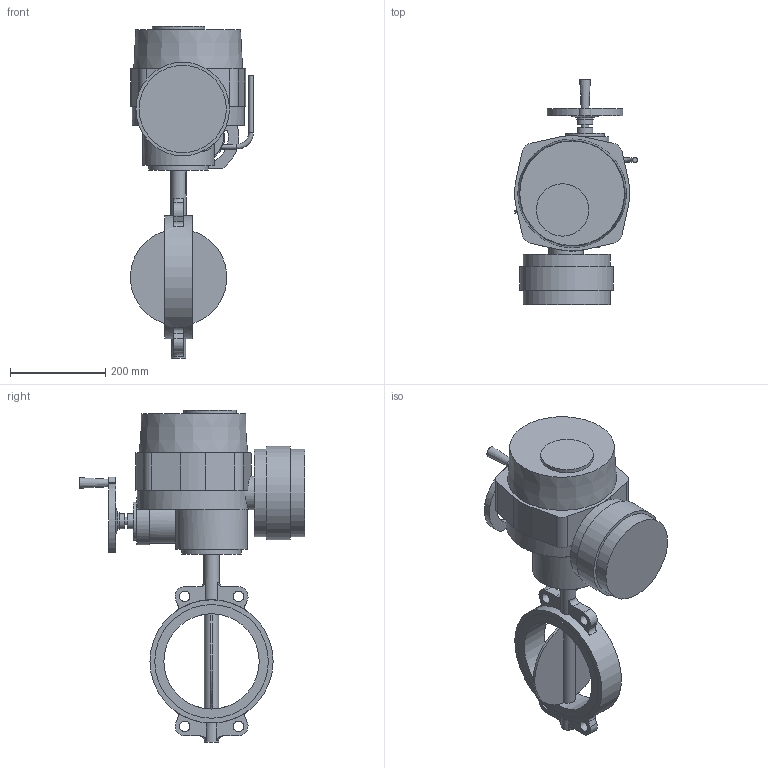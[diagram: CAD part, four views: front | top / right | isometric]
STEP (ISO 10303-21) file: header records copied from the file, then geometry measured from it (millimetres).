
FILE_DESCRIPTION(('STEP AP203'), '1');
FILE_NAME('青蜮铕 017W.Y_DN200_PN10_QT.A 030', '', ('UNSPECIFIED'), ('UNSPECIFIED'), 'ASCON STEP Converter 1.6', 'ASCON Math Kernel', '');
FILE_SCHEMA(('CONFIG_CONTROL_DESIGN'));
Length unit declared in the file: millimetre
Bounding box: 257.86 x 472 x 696 mm (x, y, z)
Volume: 16236774.7 mm3; surface area: 725652.3 mm2
Topology: 1 solids, 1 shells, 187 faces, 447 edges, 293 vertices
Faces by surface type: plane 102, cylinder 77, torus 5, cone 3
Full cylindrical faces by diameter (mm): 6.7 x8, 10 x2, 12 x4, 16 x1, 22 x4, 30 x1, 32 x3, 35 x1, 70 x1, 80 x1, 100 x1, 110 x1, 125 x1, 150 x1, 183 x2, 196 x1, 200 x1, 238.2 x2, 258.2 x1
Entity records: 8852 total; most frequent: CARTESIAN_POINT 2964, DIRECTION 947, ORIENTED_EDGE 812, EDGE_CURVE 406, AXIS2_PLACEMENT_3D 385, VERTEX_POINT 293, EDGE_LOOP 277, FACE_BOUND 205
